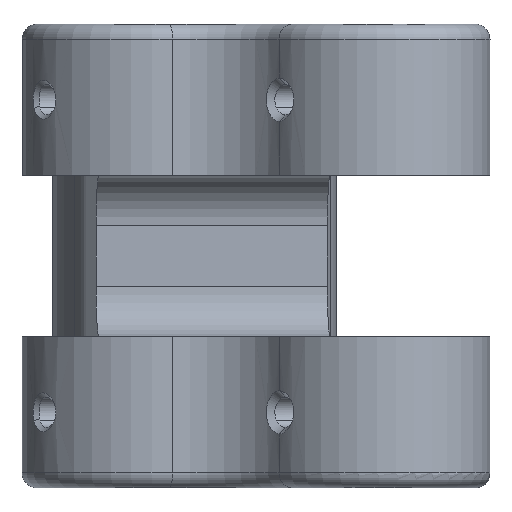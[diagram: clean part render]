
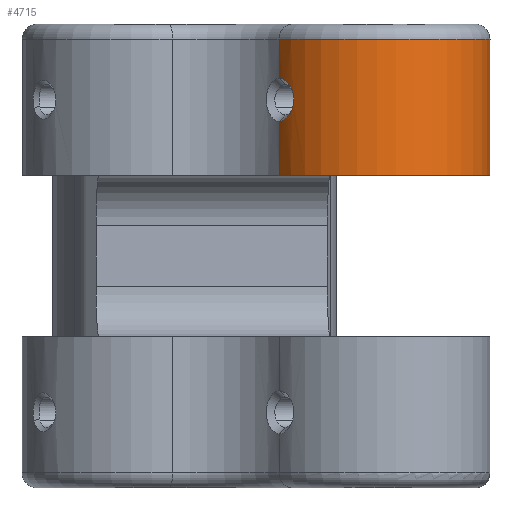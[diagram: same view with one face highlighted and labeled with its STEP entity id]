
A CAD part, left-side view. The second image highlights one B-rep face of the part: STEP entity #4715.
In plain terms, the highlighted cylindrical face has radius 22.81 mm (diameter 45.621 mm), a partial arc.
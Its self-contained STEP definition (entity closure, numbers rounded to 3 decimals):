
#44 = CARTESIAN_POINT ( 'NONE',  ( -176.099, -121.259, -13.486 ) ) ;
#129 = CARTESIAN_POINT ( 'NONE',  ( -161.523, -160.405, -3. ) ) ;
#172 = CARTESIAN_POINT ( 'NONE',  ( -173.723, -119.25, -19.149 ) ) ;
#340 = CARTESIAN_POINT ( 'NONE',  ( -172.998, -118.736, -19.295 ) ) ;
#435 = AXIS2_PLACEMENT_3D ( 'NONE', #7094, #1162, #3758 ) ;
#594 = CARTESIAN_POINT ( 'NONE',  ( -175.621, -120.808, -12.382 ) ) ;
#683 = CARTESIAN_POINT ( 'NONE',  ( -175.162, -120.398, -18.235 ) ) ;
#728 = CARTESIAN_POINT ( 'NONE',  ( -174.392, -119.759, -11.147 ) ) ;
#820 = CARTESIAN_POINT ( 'NONE',  ( -160.217, -137.632, -3. ) ) ;
#904 = CARTESIAN_POINT ( 'NONE',  ( -174.986, -120.247, -18.412 ) ) ;
#936 = ORIENTED_EDGE ( 'NONE', *, *, #8218, .T. ) ;
#1045 = AXIS2_PLACEMENT_3D ( 'NONE', #820, #5283, #5413 ) ;
#1142 = DIRECTION ( 'NONE',  ( 0., 0., 1. ) ) ;
#1162 = DIRECTION ( 'NONE',  ( 0., 0., 1. ) ) ;
#1225 = CARTESIAN_POINT ( 'NONE',  ( -160.217, -137.632, -636672.701 ) ) ;
#1232 = EDGE_CURVE ( 'NONE', #5486, #6816, #4505, .T. ) ;
#1347 = CARTESIAN_POINT ( 'NONE',  ( -175.62, -120.808, -17.615 ) ) ;
#1428 = CARTESIAN_POINT ( 'NONE',  ( -174.063, -119.505, -10.986 ) ) ;
#1594 = CARTESIAN_POINT ( 'NONE',  ( -172.745, -118.57, -19.295 ) ) ;
#1601 = CARTESIAN_POINT ( 'NONE',  ( -173.245, -118.906, -19.267 ) ) ;
#1642 = CARTESIAN_POINT ( 'NONE',  ( -161.523, -160.405, -30.002 ) ) ;
#1679 = CARTESIAN_POINT ( 'NONE',  ( -161.523, -160.405, -636672.701 ) ) ;
#1948 = CARTESIAN_POINT ( 'NONE',  ( -175.974, -121.139, -16.906 ) ) ;
#1996 = CARTESIAN_POINT ( 'NONE',  ( -176.29, -121.447, -14.44 ) ) ;
#2042 = CARTESIAN_POINT ( 'NONE',  ( -176.199, -121.357, -13.888 ) ) ;
#2084 = CARTESIAN_POINT ( 'NONE',  ( -175.686, -120.868, -17.503 ) ) ;
#2123 = DIRECTION ( 'NONE',  ( 0., 0., 1. ) ) ;
#2131 = EDGE_CURVE ( 'NONE', #6381, #6816, #3266, .T. ) ;
#2325 = CARTESIAN_POINT ( 'NONE',  ( -172.745, -118.57, -3. ) ) ;
#2326 = CARTESIAN_POINT ( 'NONE',  ( -172.745, -118.57, -30.002 ) ) ;
#2377 = CARTESIAN_POINT ( 'NONE',  ( -172.745, -118.57, -10.712 ) ) ;
#2389 = AXIS2_PLACEMENT_3D ( 'NONE', #1225, #2574, #2663 ) ;
#2471 = DIRECTION ( 'NONE',  ( 0., 0., 1. ) ) ;
#2574 = DIRECTION ( 'NONE',  ( 0., 0., 1. ) ) ;
#2607 = CARTESIAN_POINT ( 'NONE',  ( -173.949, -119.418, -10.938 ) ) ;
#2609 = VECTOR ( 'NONE', #2471, 1000. ) ;
#2627 = VERTEX_POINT ( 'NONE', #2326 ) ;
#2663 = DIRECTION ( 'NONE',  ( -0.057, -0.998, 0. ) ) ;
#2863 = CARTESIAN_POINT ( 'NONE',  ( -173.952, -119.42, -19.068 ) ) ;
#3249 = CARTESIAN_POINT ( 'NONE',  ( -175.973, -121.138, -13.098 ) ) ;
#3266 = LINE ( 'NONE', #8563, #7974 ) ;
#3379 = CARTESIAN_POINT ( 'NONE',  ( -175.869, -121.039, -12.851 ) ) ;
#3554 = CARTESIAN_POINT ( 'NONE',  ( -174.698, -120.007, -18.647 ) ) ;
#3749 = EDGE_CURVE ( 'NONE', #6381, #4105, #5587, .T. ) ;
#3758 = DIRECTION ( 'NONE',  ( -0.057, -0.998, 0. ) ) ;
#3896 = CARTESIAN_POINT ( 'NONE',  ( -175.48, -120.68, -12.167 ) ) ;
#3989 = CARTESIAN_POINT ( 'NONE',  ( -175.478, -120.678, -17.833 ) ) ;
#4105 = VERTEX_POINT ( 'NONE', #1594 ) ;
#4131 = VECTOR ( 'NONE', #2123, 1000. ) ;
#4251 = CARTESIAN_POINT ( 'NONE',  ( -174.284, -119.675, -18.913 ) ) ;
#4505 = CIRCLE ( 'NONE', #1045, 22.81 ) ;
#4525 = ORIENTED_EDGE ( 'NONE', *, *, #1232, .T. ) ;
#4632 = CARTESIAN_POINT ( 'NONE',  ( -176.312, -121.468, -15.282 ) ) ;
#4715 = ADVANCED_FACE ( 'NONE', ( #7453 ), #5952, .T. ) ;
#4722 = CARTESIAN_POINT ( 'NONE',  ( -176.226, -121.384, -14.025 ) ) ;
#4764 = CARTESIAN_POINT ( 'NONE',  ( -174.983, -120.244, -11.592 ) ) ;
#4807 = CARTESIAN_POINT ( 'NONE',  ( -172.745, -118.57, -19.295 ) ) ;
#4894 = CARTESIAN_POINT ( 'NONE',  ( -173.608, -119.165, -19.183 ) ) ;
#4979 = EDGE_CURVE ( 'NONE', #2627, #5572, #6947, .T. ) ;
#5237 = CARTESIAN_POINT ( 'NONE',  ( -172.996, -118.735, -10.712 ) ) ;
#5279 = CARTESIAN_POINT ( 'NONE',  ( -174.597, -119.923, -11.279 ) ) ;
#5283 = DIRECTION ( 'NONE',  ( 0., 0., -1. ) ) ;
#5413 = DIRECTION ( 'NONE',  ( -0.057, -0.998, 0. ) ) ;
#5454 = CARTESIAN_POINT ( 'NONE',  ( -174.064, -119.505, -19.021 ) ) ;
#5486 = VERTEX_POINT ( 'NONE', #129 ) ;
#5572 = VERTEX_POINT ( 'NONE', #1642 ) ;
#5587 = B_SPLINE_CURVE_WITH_KNOTS ( 'NONE', 3,
 ( #7406, #5237, #8060, #7973, #8542, #2607, #1428, #728, #5279, #4764, #5983, #3896, #594, #3379, #3249, #44, #7927, #2042, #4722, #1996, #7885, #4632, #5889, #6025, #7276, #1948, #6070, #2084, #1347, #3989, #6628, #683, #904, #3554, #6156, #7539, #4251, #5454, #2863, #172, #4894, #1601, #340, #4807 ),
 .UNSPECIFIED., .F., .F.,
 ( 4, 2, 2, 2, 2, 2, 2, 2, 2, 2, 2, 2, 2, 2, 2, 2, 2, 2, 2, 2, 2, 4 ),
 ( 0., 0.062, 0.094, 0.125, 0.187, 0.25, 0.313, 0.375, 0.406, 0.438, 0.5, 0.563, 0.625, 0.688, 0.719, 0.75, 0.813, 0.844, 0.875, 0.906, 0.938, 1. ),
 .UNSPECIFIED. ) ;
#5889 = CARTESIAN_POINT ( 'NONE',  ( -176.29, -121.447, -15.566 ) ) ;
#5952 = CYLINDRICAL_SURFACE ( 'NONE', #2389, 22.81 ) ;
#5983 = CARTESIAN_POINT ( 'NONE',  ( -175.16, -120.397, -11.77 ) ) ;
#6025 = CARTESIAN_POINT ( 'NONE',  ( -176.205, -121.363, -16.117 ) ) ;
#6070 = CARTESIAN_POINT ( 'NONE',  ( -175.87, -121.039, -17.155 ) ) ;
#6156 = CARTESIAN_POINT ( 'NONE',  ( -174.599, -119.926, -18.718 ) ) ;
#6381 = VERTEX_POINT ( 'NONE', #2377 ) ;
#6628 = CARTESIAN_POINT ( 'NONE',  ( -175.401, -120.61, -17.937 ) ) ;
#6731 = EDGE_LOOP ( 'NONE', ( #8271, #936, #4525, #6840, #8114, #8203 ) ) ;
#6793 = CARTESIAN_POINT ( 'NONE',  ( -172.745, -118.57, -112.339 ) ) ;
#6816 = VERTEX_POINT ( 'NONE', #2325 ) ;
#6836 = LINE ( 'NONE', #6793, #4131 ) ;
#6840 = ORIENTED_EDGE ( 'NONE', *, *, #2131, .F. ) ;
#6947 = CIRCLE ( 'NONE', #435, 22.81 ) ;
#7094 = CARTESIAN_POINT ( 'NONE',  ( -160.217, -137.632, -30.002 ) ) ;
#7276 = CARTESIAN_POINT ( 'NONE',  ( -176.143, -121.301, -16.384 ) ) ;
#7406 = CARTESIAN_POINT ( 'NONE',  ( -172.745, -118.57, -10.712 ) ) ;
#7453 = FACE_OUTER_BOUND ( 'NONE', #6731, .T. ) ;
#7539 = CARTESIAN_POINT ( 'NONE',  ( -174.391, -119.76, -18.852 ) ) ;
#7885 = CARTESIAN_POINT ( 'NONE',  ( -176.311, -121.468, -14.718 ) ) ;
#7927 = CARTESIAN_POINT ( 'NONE',  ( -176.135, -121.295, -13.617 ) ) ;
#7973 = CARTESIAN_POINT ( 'NONE',  ( -173.601, -119.16, -10.822 ) ) ;
#7974 = VECTOR ( 'NONE', #1142, 1000. ) ;
#8060 = CARTESIAN_POINT ( 'NONE',  ( -173.243, -118.904, -10.74 ) ) ;
#8103 = EDGE_CURVE ( 'NONE', #2627, #4105, #6836, .T. ) ;
#8114 = ORIENTED_EDGE ( 'NONE', *, *, #3749, .T. ) ;
#8203 = ORIENTED_EDGE ( 'NONE', *, *, #8103, .F. ) ;
#8218 = EDGE_CURVE ( 'NONE', #5572, #5486, #8399, .T. ) ;
#8271 = ORIENTED_EDGE ( 'NONE', *, *, #4979, .T. ) ;
#8399 = LINE ( 'NONE', #1679, #2609 ) ;
#8542 = CARTESIAN_POINT ( 'NONE',  ( -173.718, -119.246, -10.856 ) ) ;
#8563 = CARTESIAN_POINT ( 'NONE',  ( -172.745, -118.57, -112.339 ) ) ;
